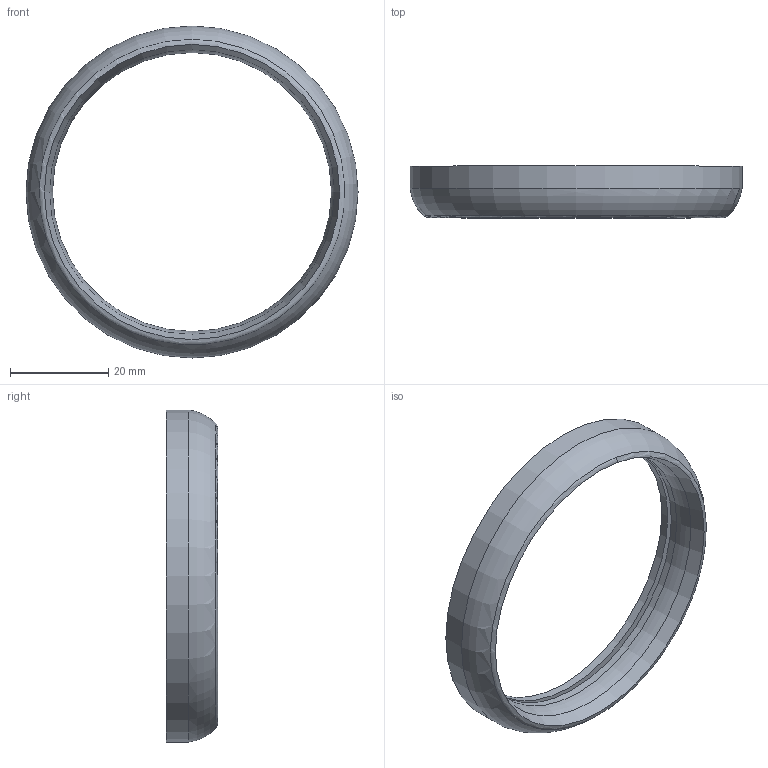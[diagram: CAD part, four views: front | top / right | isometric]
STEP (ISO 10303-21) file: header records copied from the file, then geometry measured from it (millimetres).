
FILE_DESCRIPTION (( 'STEP AP214' ), '1' );
FILE_NAME ('10FF.070.001.15R.STEP', '2026-03-25T19:29:59', ( '' ), ( '' ), 'SwSTEP 2.0', 'SolidWorks 2025', '' );
FILE_SCHEMA (( 'AUTOMOTIVE_DESIGN' ));
Length unit declared in the file: millimetre
Products named in the file (1): 10FF.070.001.15R
Bounding box: 67.5 x 10.5 x 67.5 mm (x, y, z)
Volume: 8424.6 mm3; surface area: 6628.3 mm2
Topology: 1 solids, 1 shells, 11 faces, 23 edges, 15 vertices
Faces by surface type: cylinder 4, plane 3, torus 3, cone 1
Full cylindrical faces by diameter (mm): 56.715 x2, 62.775 x1, 67.5 x1
Entity records: 251 total; most frequent: DIRECTION 46, CARTESIAN_POINT 34, AXIS2_PLACEMENT_3D 23, ORIENTED_EDGE 22, EDGE_LOOP 22, FACE_OUTER_BOUND 18, VERTEX_POINT 11, EDGE_CURVE 11
